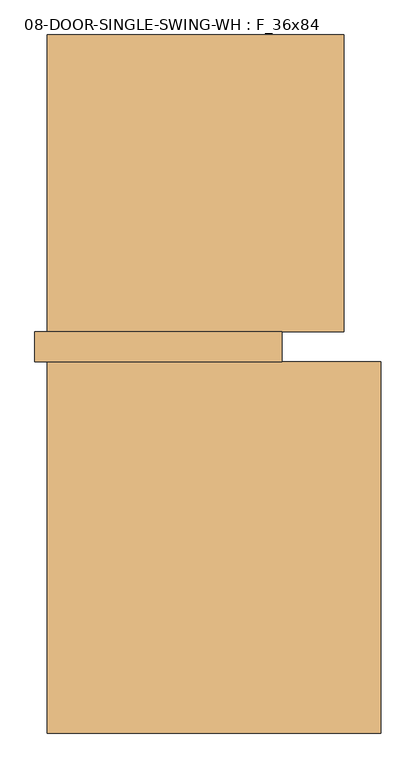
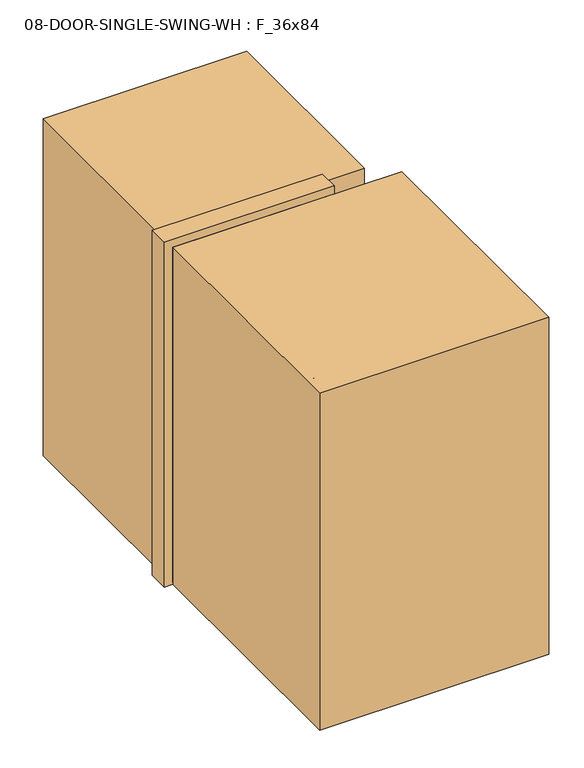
"""IFC4 building model written with IfcOpenShell, lengths in millimetres: door geometry, 08-DOOR-SINGLE-SWING-WH : F_36x84."""

from ifc_helpers import new_model, si_unit, point, frame, origin, origin_with_axes, place, context, project, spatial, polyline, circle_curve, ellipse_curve, trimmed, outline, extrude, source, transform, mapped, element, save
from ifc_brep_helpers import plane_surface, cylinder_surface, revolved_surface, advanced_brep


def door_08_door_single_swing_wh_f_36x84_ec14af54(model_context):
    return source(origin(), model_context, "Body", "SolidModel", [
        extrude(outline(polyline([(-438.8346798, 1281.1125), (780.3653202, 1281.1125), (780.3653202, 61.9125), (-438.8346798, 61.9125), (-438.8346798, 1281.1125)])), origin_with_axes(), (0.0, 0.0, 1.0), 2133.6),
        extrude(outline(polyline([(-438.8346798, -1585.9125), (-438.8346798, -61.9125), (932.7653202, -61.9125), (932.7653202, -1585.9125), (-438.8346798, -1585.9125)])), origin_with_axes(), (0.0, 0.0, 1.0), 2133.6),
        advanced_brep(
        [(364.4403202, -4.7625, 1066.8), (383.4903202, -4.7625, 1066.8), (364.4403202, 46.0375, 1066.8), (383.4903202, 46.0375, 1066.8), (348.5653202, 61.9125, 1066.8), (348.5653202, 80.9625, 1066.8), (259.6653202, 61.9125, 1066.8), (259.6653202, 80.9625, 1066.8)],
        [
            (0, 1, circle_curve(frame((373.9653202, -4.7625, 1066.8), z_axis=(0.0, -1.0, 0.0), x_axis=(1.0, 0.0, 0.0)), 9.525)),
            (1, 0, circle_curve(frame((373.9653202, -4.7625, 1066.8), z_axis=(0.0, -1.0, 0.0), x_axis=(1.0, 0.0, 0.0)), 9.525)),
            (0, 2),
            (2, 3, circle_curve(frame((373.9653202, 46.0375, 1066.8), z_axis=(0.0, -1.0, 0.0), x_axis=(1.0, 0.0, 0.0)), 9.525)),
            (3, 1),
            (3, 2, circle_curve(frame((373.9653202, 46.0375, 1066.8), z_axis=(0.0, -1.0, 0.0), x_axis=(1.0, 0.0, 0.0)), 9.525)),
            (4, 5, circle_curve(frame((348.5653202, 71.4375, 1066.8), z_axis=(1.0, 0.0, 0.0), x_axis=(0.0, 1.0, 0.0)), 9.525)),
            (5, 3, circle_curve(frame((348.5653202, 46.0375, 1066.8), z_axis=(0.0, 0.0, -1.0), x_axis=(1.0, 0.0, 0.0)), 34.925)),
            (2, 4, circle_curve(frame((348.5653202, 46.0375, 1066.8), z_axis=(0.0, 0.0, 1.0), x_axis=(1.0, 0.0, 0.0)), 15.875)),
            (5, 4, circle_curve(frame((348.5653202, 71.4375, 1066.8), z_axis=(1.0, 0.0, 0.0), x_axis=(0.0, 1.0, 0.0)), 9.525)),
            (6, 7, circle_curve(frame((259.6653202, 71.4375, 1066.8), z_axis=(-1.0, 0.0, 0.0), x_axis=(0.0, 1.0, 0.0)), 9.525)),
            (7, 6, circle_curve(frame((259.6653202, 71.4375, 1066.8), z_axis=(-1.0, 0.0, 0.0), x_axis=(0.0, 1.0, 0.0)), 9.525)),
            (4, 6),
            (7, 5),
        ],
        [
            plane_surface(frame((373.9653202, -4.7625, 1066.8), z_axis=(0.0, -1.0, 0.0), x_axis=(0.0, 0.0, 1.0))),
            cylinder_surface(frame((373.9653202, -4.7625, 1066.8), z_axis=(0.0, -1.0, 0.0), x_axis=(1.0, 0.0, 0.0)), 9.525),
            revolved_surface(trimmed(ellipse_curve(frame((373.9653202, 46.0375, 1066.8), z_axis=(0.0, 1.0, 0.0), x_axis=(1.0, 0.0, 0.0)), 9.525, 9.525), [point((383.4903202, 46.0375, 1066.8))], [point((364.4403202, 46.0375, 1066.8))], True, "CARTESIAN"), (348.5653202, 46.0375, 1066.8), (0.0, 0.0, -1.0)),
            revolved_surface(trimmed(ellipse_curve(frame((373.9653202, 46.0375, 1066.8), z_axis=(0.0, 1.0, 0.0), x_axis=(1.0, 0.0, 0.0)), 9.525, 9.525), [point((364.4403202, 46.0375, 1066.8))], [point((383.4903202, 46.0375, 1066.8))], True, "CARTESIAN"), (348.5653202, 46.0375, 1066.8), (0.0, 0.0, -1.0)),
            plane_surface(frame((259.6653202, 71.4375, 1066.8), z_axis=(-1.0, 0.0, 0.0), x_axis=(0.0, 0.0, 1.0))),
            cylinder_surface(frame((348.5653202, 71.4375, 1066.8), z_axis=(1.0, 0.0, 0.0), x_axis=(0.0, 1.0, 0.0)), 9.525),
        ],
        [
            (0, [[1, 2]]),
            (1, [[3, 4, 5, -1]]),
            (1, [[-5, 6, -3, -2]]),
            (2, [[7, 8, -4, 9]]),
            (3, [[10, -9, -6, -8]]),
            (4, [[11, 12]]),
            (5, [[13, -12, 14, -7]]),
            (5, [[-14, -11, -13, -10]]),
        ],
    ),
        advanced_brep(
        [(373.9653202, -17.4625, 1066.8), (342.2153202, -17.4625, 1066.8), (405.7153202, -17.4625, 1066.8), (342.2153202, -11.1125, 1066.8), (405.7153202, -11.1125, 1066.8), (361.2653202, -4.7625, 1066.8), (386.6653202, -4.7625, 1066.8), (373.9653202, -4.7625, 1066.8)],
        [
            (0, 1),
            (1, 2, circle_curve(frame((373.9653202, -17.4625, 1066.8), z_axis=(0.0, -1.0, 0.0), x_axis=(1.0, 0.0, 0.0)), 31.75)),
            (2, 0),
            (2, 1, circle_curve(frame((373.9653202, -17.4625, 1066.8), z_axis=(0.0, -1.0, 0.0), x_axis=(1.0, 0.0, 0.0)), 31.75)),
            (1, 3),
            (3, 4, circle_curve(frame((373.9653202, -11.1125, 1066.8), z_axis=(0.0, -1.0, 0.0), x_axis=(1.0, 0.0, 0.0)), 31.75)),
            (4, 2),
            (4, 3, circle_curve(frame((373.9653202, -11.1125, 1066.8), z_axis=(0.0, -1.0, 0.0), x_axis=(1.0, 0.0, 0.0)), 31.75)),
            (3, 5),
            (5, 6, circle_curve(frame((373.9653202, -4.7625, 1066.8), z_axis=(0.0, -1.0, 0.0), x_axis=(1.0, 0.0, 0.0)), 12.7)),
            (6, 4),
            (6, 5, circle_curve(frame((373.9653202, -4.7625, 1066.8), z_axis=(0.0, -1.0, 0.0), x_axis=(1.0, 0.0, 0.0)), 12.7)),
            (5, 7),
            (7, 6),
        ],
        [
            plane_surface(frame((373.9653202, -17.4625, 1066.8), z_axis=(0.0, -1.0, 0.0), x_axis=(1.0, 0.0, 0.0))),
            cylinder_surface(frame((373.9653202, -7.8543504, 1066.8), z_axis=(0.0, -1.0, 0.0), x_axis=(1.0, 0.0, 0.0)), 31.75),
            revolved_surface(polyline([(386.6653202, -4.7625, 1066.8), (405.7153202, -11.1125, 1066.8)]), (373.9653202, -7.8543504, 1066.8), (0.0, -1.0, 0.0)),
            plane_surface(frame((373.9653202, -4.7625, 1066.8), z_axis=(0.0, 1.0, 0.0), x_axis=(1.0, 0.0, 0.0))),
        ],
        [
            (0, [[1, 2, 3]]),
            (0, [[-3, 4, -1]]),
            (1, [[5, 6, 7, -2]]),
            (1, [[-7, 8, -5, -4]]),
            (2, [[9, 10, 11, -6]]),
            (2, [[-11, 12, -9, -8]]),
            (3, [[13, 14, -10]]),
            (3, [[-14, -13, -12]]),
        ],
    ),
        advanced_brep(
        [(383.4903202, -74.6125, 1066.8), (364.4403202, -74.6125, 1066.8), (364.4403202, -125.4125, 1066.8), (383.4903202, -125.4125, 1066.8), (348.5653202, -141.2875, 1066.8), (348.5653202, -160.3375, 1066.8), (259.6653202, -160.3375, 1066.8), (259.6653202, -141.2875, 1066.8)],
        [
            (0, 1, circle_curve(frame((373.9653202, -74.6125, 1066.8), z_axis=(0.0, 1.0, 0.0), x_axis=(-1.0, 0.0, 0.0)), 9.525)),
            (1, 0, circle_curve(frame((373.9653202, -74.6125, 1066.8), z_axis=(0.0, 1.0, 0.0), x_axis=(-1.0, 0.0, 0.0)), 9.525)),
            (1, 2),
            (2, 3, circle_curve(frame((373.9653202, -125.4125, 1066.8), z_axis=(0.0, 1.0, 0.0), x_axis=(-1.0, 0.0, 0.0)), 9.525)),
            (3, 0),
            (3, 2, circle_curve(frame((373.9653202, -125.4125, 1066.8), z_axis=(0.0, 1.0, 0.0), x_axis=(-1.0, 0.0, 0.0)), 9.525)),
            (4, 5, circle_curve(frame((348.5653202, -150.8125, 1066.8), z_axis=(1.0, 0.0, 0.0), x_axis=(0.0, 1.0, 0.0)), 9.525)),
            (5, 3, circle_curve(frame((348.5653202, -125.4125, 1066.8), z_axis=(0.0, 0.0, 1.0), x_axis=(1.0, 0.0, 0.0)), 34.925)),
            (2, 4, circle_curve(frame((348.5653202, -125.4125, 1066.8), z_axis=(0.0, 0.0, -1.0), x_axis=(1.0, 0.0, 0.0)), 15.875)),
            (5, 4, circle_curve(frame((348.5653202, -150.8125, 1066.8), z_axis=(1.0, 0.0, 0.0), x_axis=(0.0, 1.0, 0.0)), 9.525)),
            (6, 7, circle_curve(frame((259.6653202, -150.8125, 1066.8), z_axis=(-1.0, 0.0, 0.0), x_axis=(0.0, 1.0, 0.0)), 9.525)),
            (7, 6, circle_curve(frame((259.6653202, -150.8125, 1066.8), z_axis=(-1.0, 0.0, 0.0), x_axis=(0.0, 1.0, 0.0)), 9.525)),
            (4, 7),
            (6, 5),
        ],
        [
            plane_surface(frame((373.9653202, -74.6125, 1066.8), z_axis=(0.0, 1.0, 0.0), x_axis=(0.0, 0.0, 1.0))),
            cylinder_surface(frame((373.9653202, -74.6125, 1066.8), z_axis=(0.0, 1.0, 0.0), x_axis=(-1.0, 0.0, 0.0)), 9.525),
            revolved_surface(trimmed(ellipse_curve(frame((373.9653202, -125.4125, 1066.8), z_axis=(0.0, -1.0, 0.0), x_axis=(-1.0, 0.0, 0.0)), 9.525, 9.525), [point((383.4903202, -125.4125, 1066.8))], [point((364.4403202, -125.4125, 1066.8))], True, "CARTESIAN"), (348.5653202, -125.4125, 1066.8), (0.0, 0.0, 1.0)),
            revolved_surface(trimmed(ellipse_curve(frame((373.9653202, -125.4125, 1066.8), z_axis=(0.0, -1.0, 0.0), x_axis=(-1.0, 0.0, 0.0)), 9.525, 9.525), [point((364.4403202, -125.4125, 1066.8))], [point((383.4903202, -125.4125, 1066.8))], True, "CARTESIAN"), (348.5653202, -125.4125, 1066.8), (0.0, 0.0, 1.0)),
            plane_surface(frame((259.6653202, -150.8125, 1066.8), z_axis=(-1.0, 0.0, 0.0), x_axis=(0.0, 0.0, 1.0))),
            cylinder_surface(frame((348.5653202, -150.8125, 1066.8), z_axis=(1.0, 0.0, 0.0), x_axis=(0.0, 1.0, 0.0)), 9.525),
        ],
        [
            (0, [[1, 2]]),
            (1, [[3, 4, 5, -2]]),
            (1, [[-5, 6, -3, -1]]),
            (2, [[7, 8, -4, 9]]),
            (3, [[10, -9, -6, -8]]),
            (4, [[11, 12]]),
            (5, [[13, -11, 14, -7]]),
            (5, [[-14, -12, -13, -10]]),
        ],
    ),
        advanced_brep(
        [(342.2153202, -61.9125, 1066.8), (373.9653202, -61.9125, 1066.8), (405.7153202, -61.9125, 1066.8), (342.2153202, -68.2625, 1066.8), (405.7153202, -68.2625, 1066.8), (361.2653202, -74.6125, 1066.8), (386.6653202, -74.6125, 1066.8), (373.9653202, -74.6125, 1066.8)],
        [
            (0, 1),
            (1, 2),
            (2, 0, circle_curve(frame((373.9653202, -61.9125, 1066.8), z_axis=(0.0, 1.0, 0.0), x_axis=(1.0, 0.0, 0.0)), 31.75)),
            (0, 2, circle_curve(frame((373.9653202, -61.9125, 1066.8), z_axis=(0.0, 1.0, 0.0), x_axis=(1.0, 0.0, 0.0)), 31.75)),
            (3, 0),
            (2, 4),
            (4, 3, circle_curve(frame((373.9653202, -68.2625, 1066.8), z_axis=(0.0, 1.0, 0.0), x_axis=(1.0, 0.0, 0.0)), 31.75)),
            (3, 4, circle_curve(frame((373.9653202, -68.2625, 1066.8), z_axis=(0.0, 1.0, 0.0), x_axis=(1.0, 0.0, 0.0)), 31.75)),
            (5, 3),
            (4, 6),
            (6, 5, circle_curve(frame((373.9653202, -74.6125, 1066.8), z_axis=(0.0, 1.0, 0.0), x_axis=(1.0, 0.0, 0.0)), 12.7)),
            (5, 6, circle_curve(frame((373.9653202, -74.6125, 1066.8), z_axis=(0.0, 1.0, 0.0), x_axis=(1.0, 0.0, 0.0)), 12.7)),
            (7, 5),
            (6, 7),
        ],
        [
            plane_surface(frame((373.9653202, -61.9125, 1066.8), z_axis=(0.0, 1.0, 0.0), x_axis=(1.0, 0.0, 0.0))),
            cylinder_surface(frame((373.9653202, -71.5206496, 1066.8), z_axis=(0.0, -1.0, 0.0), x_axis=(1.0, 0.0, 0.0)), 31.75),
            revolved_surface(polyline([(405.7153202, -68.2625, 1066.8), (386.6653202, -74.6125, 1066.8)]), (373.9653202, -71.5206496, 1066.8), (0.0, -1.0, 0.0)),
            plane_surface(frame((373.9653202, -74.6125, 1066.8), z_axis=(0.0, -1.0, 0.0), x_axis=(1.0, 0.0, 0.0))),
        ],
        [
            (0, [[1, 2, 3]]),
            (0, [[-2, -1, 4]]),
            (1, [[5, -3, 6, 7]]),
            (1, [[-6, -4, -5, 8]]),
            (2, [[9, -7, 10, 11]]),
            (2, [[-10, -8, -9, 12]]),
            (3, [[13, -11, 14]]),
            (3, [[-14, -12, -13]]),
        ],
    ),
        extrude(outline(polyline([(475.5653202, -17.4625), (475.5653202, -61.9125), (-438.8346798, -61.9125), (-438.8346798, -17.4625), (475.5653202, -17.4625)])), frame((0.0, 0.0, 12.7), z_axis=(0.0, 0.0, 1.0), x_axis=(1.0, 0.0, 0.0)), (0.0, 0.0, 1.0), 2120.9),
        extrude(outline(polyline([(0.0, 526.3653202), (2184.4, 526.3653202), (2184.4, -489.6346798), (0.0, -489.6346798), (0.0, -438.8346798), (2133.6, -438.8346798), (2133.6, 475.5653202), (0.0, 475.5653202), (0.0, 526.3653202)])), frame((0.0, -61.9125, 0.0), z_axis=(0.0, 1.0, 0.0), x_axis=(0.0, 0.0, 1.0)), (0.0, 0.0, 1.0), 123.825),
    ])


if __name__ == "__main__":
    model = new_model("IFC4")
    model_context = context("Model", 3, world=origin())
    ifc_project = project(units=[si_unit("LENGTHUNIT", "METRE", prefix="MILLI")], contexts=[model_context])
    site = spatial("IfcSite", under=ifc_project)
    building = spatial("IfcBuilding", under=site)
    placement = place(None, origin())
    door_08_door_single_swing_wh_f_36x84_shape = door_08_door_single_swing_wh_f_36x84_ec14af54(model_context)
    element("IfcDoor", 1, ObjectType="08-DOOR-SINGLE-SWING-WH : F_36x84", at=placement, inside=building, context=model_context, shape_type="MappedRepresentation", body=[
        mapped(door_08_door_single_swing_wh_f_36x84_shape, transform((0.0, 0.0, 0.0), x_axis=(1.0, 0.0, 0.0), y_axis=(0.0, 1.0, 0.0), z_axis=(0.0, 0.0, 1.0))),
    ])
    save(model, "model.ifc")
